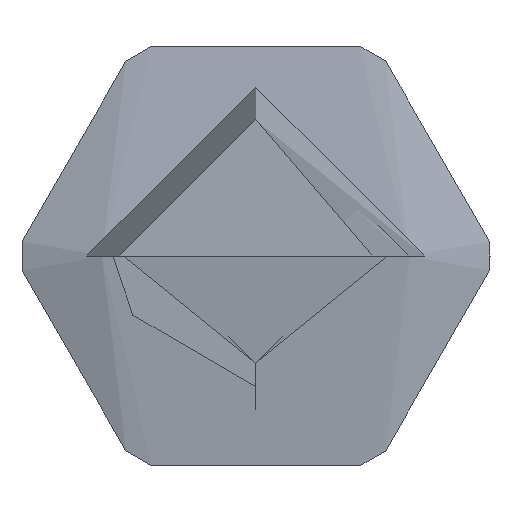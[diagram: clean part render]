
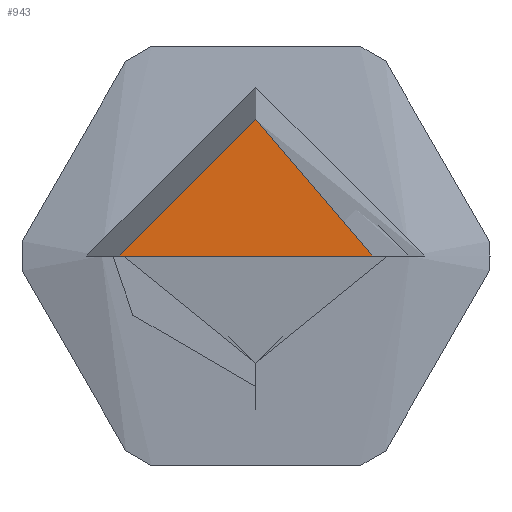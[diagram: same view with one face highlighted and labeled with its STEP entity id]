
A CAD part, left-side view. The second image highlights one B-rep face of the part: STEP entity #943.
In plain terms, the highlighted free-form (B-spline) face has degree [1, 1] with [2, 2] control points.
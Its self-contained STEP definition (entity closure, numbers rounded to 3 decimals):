
#943 = ADVANCED_FACE('',(#944,#966),#988,.T.);
#944 = FACE_BOUND('',#945,.T.);
#945 = EDGE_LOOP('',(#946,#956));
#946 = ORIENTED_EDGE('',*,*,#947,.F.);
#947 = EDGE_CURVE('',#948,#950,#952,.T.);
#948 = VERTEX_POINT('',#949);
#949 = CARTESIAN_POINT('',(0.,8.75,0.));
#950 = VERTEX_POINT('',#951);
#951 = CARTESIAN_POINT('',(0.,0.,8.75));
#952 = ( BOUNDED_CURVE() B_SPLINE_CURVE(2,(#953,#954,#955),
.UNSPECIFIED.,.F.,.F.) B_SPLINE_CURVE_WITH_KNOTS((3,3),(0.,
1.571),.PIECEWISE_BEZIER_KNOTS.) CURVE() 
GEOMETRIC_REPRESENTATION_ITEM() RATIONAL_B_SPLINE_CURVE((1.,
0.707,1.)) REPRESENTATION_ITEM('') );
#953 = CARTESIAN_POINT('',(0.,8.75,0.));
#954 = CARTESIAN_POINT('',(0.,8.75,8.75));
#955 = CARTESIAN_POINT('',(0.,0.,8.75));
#956 = ORIENTED_EDGE('',*,*,#957,.F.);
#957 = EDGE_CURVE('',#950,#948,#958,.T.);
#958 = ( BOUNDED_CURVE() B_SPLINE_CURVE(2,(#959,#960,#961,#962,#963,#964
,#965),.UNSPECIFIED.,.F.,.F.) B_SPLINE_CURVE_WITH_KNOTS((3,2,2,3),(
    1.571,3.142,4.712,6.283),
.UNSPECIFIED.) CURVE() GEOMETRIC_REPRESENTATION_ITEM() 
RATIONAL_B_SPLINE_CURVE((1.,0.707,1.,0.707,1.,
0.707,1.)) REPRESENTATION_ITEM('') );
#959 = CARTESIAN_POINT('',(0.,0.,8.75));
#960 = CARTESIAN_POINT('',(0.,-8.75,8.75));
#961 = CARTESIAN_POINT('',(0.,-8.75,0.));
#962 = CARTESIAN_POINT('',(0.,-8.75,-8.75));
#963 = CARTESIAN_POINT('',(0.,0.,-8.75));
#964 = CARTESIAN_POINT('',(0.,8.75,-8.75));
#965 = CARTESIAN_POINT('',(0.,8.75,0.));
#966 = FACE_BOUND('',#967,.T.);
#967 = EDGE_LOOP('',(#968,#980));
#968 = ORIENTED_EDGE('',*,*,#969,.T.);
#969 = EDGE_CURVE('',#970,#972,#974,.T.);
#970 = VERTEX_POINT('',#971);
#971 = CARTESIAN_POINT('',(0.,7.5,0.));
#972 = VERTEX_POINT('',#973);
#973 = CARTESIAN_POINT('',(0.,-7.5,0.));
#974 = ( BOUNDED_CURVE() B_SPLINE_CURVE(2,(#975,#976,#977,#978,#979),
.UNSPECIFIED.,.F.,.F.) B_SPLINE_CURVE_WITH_KNOTS((3,2,3),(0.,
1.571,3.142),.UNSPECIFIED.) CURVE() 
GEOMETRIC_REPRESENTATION_ITEM() RATIONAL_B_SPLINE_CURVE((1.,
0.707,1.,0.707,1.)) REPRESENTATION_ITEM('') );
#975 = CARTESIAN_POINT('',(0.,7.5,0.));
#976 = CARTESIAN_POINT('',(0.,7.5,7.5));
#977 = CARTESIAN_POINT('',(0.,0.,7.5));
#978 = CARTESIAN_POINT('',(0.,-7.5,7.5));
#979 = CARTESIAN_POINT('',(0.,-7.5,0.));
#980 = ORIENTED_EDGE('',*,*,#981,.T.);
#981 = EDGE_CURVE('',#972,#970,#982,.T.);
#982 = ( BOUNDED_CURVE() B_SPLINE_CURVE(2,(#983,#984,#985,#986,#987),
.UNSPECIFIED.,.F.,.F.) B_SPLINE_CURVE_WITH_KNOTS((3,2,3),(3.142,
4.712,6.283),.PIECEWISE_BEZIER_KNOTS.) CURVE() 
GEOMETRIC_REPRESENTATION_ITEM() RATIONAL_B_SPLINE_CURVE((1.,
0.707,1.,0.707,1.)) REPRESENTATION_ITEM('') );
#983 = CARTESIAN_POINT('',(0.,-7.5,0.));
#984 = CARTESIAN_POINT('',(0.,-7.5,-7.5));
#985 = CARTESIAN_POINT('',(0.,0.,-7.5)
  );
#986 = CARTESIAN_POINT('',(0.,7.5,-7.5));
#987 = CARTESIAN_POINT('',(0.,7.5,0.));
#988 = B_SPLINE_SURFACE_WITH_KNOTS('',1,1,(
    (#989,#990)
    ,(#991,#992
    )),.UNSPECIFIED.,.F.,.F.,.F.,(2,2),(2,2),(-0.876,0.876),(-1.739,
    0.014),.PIECEWISE_BEZIER_KNOTS.);
#989 = CARTESIAN_POINT('',(0.,-8.76,-8.76));
#990 = CARTESIAN_POINT('',(0.,8.76,-8.76));
#991 = CARTESIAN_POINT('',(0.,-8.76,8.76));
#992 = CARTESIAN_POINT('',(0.,8.76,8.76));
